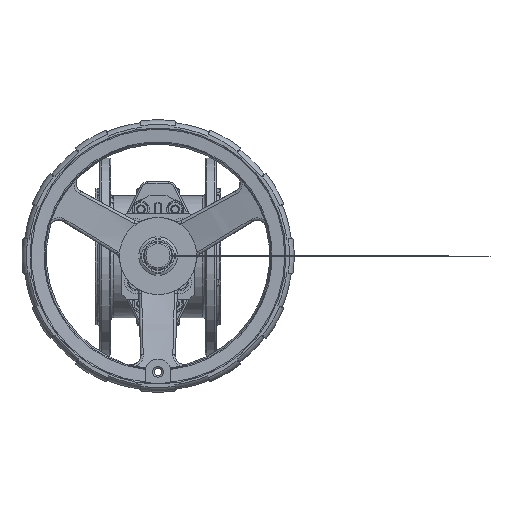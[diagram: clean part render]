
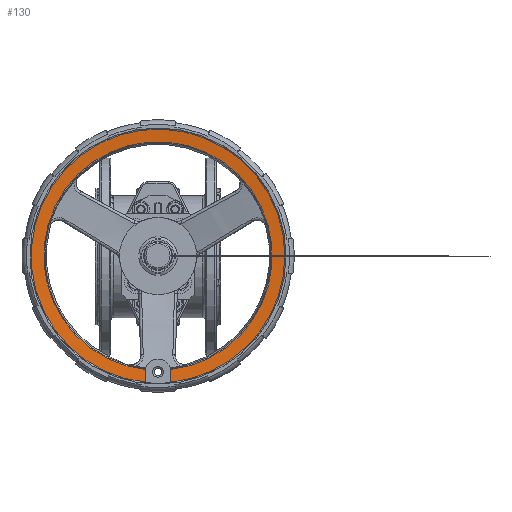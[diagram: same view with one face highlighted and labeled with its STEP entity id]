
A CAD part, top view. The second image highlights one B-rep face of the part: STEP entity #130.
In plain terms, the highlighted conical face has half-angle 85 degrees and reference radius 149 mm.
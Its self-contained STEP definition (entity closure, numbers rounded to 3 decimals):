
#130=ADVANCED_FACE('',(#1524),#1525,.F.);
#1524=FACE_OUTER_BOUND('',#4804,.T.);
#1525=CONICAL_SURFACE('',#4805,149.,1.484);
#4804=EDGE_LOOP('',(#22135,#22136,#22137,#22138,#22139,#22140));
#4805=AXIS2_PLACEMENT_3D('',#22141,#22142,#22143);
#22135=ORIENTED_EDGE('',*,*,#32483,.T.);
#22136=ORIENTED_EDGE('',*,*,#32484,.T.);
#22137=ORIENTED_EDGE('',*,*,#32485,.T.);
#22138=ORIENTED_EDGE('',*,*,#32486,.T.);
#22139=ORIENTED_EDGE('',*,*,#32487,.T.);
#22140=ORIENTED_EDGE('',*,*,#32488,.T.);
#22141=CARTESIAN_POINT('',(-386.5,0.,142.465));
#22142=DIRECTION('',(0.,0.,1.));
#22143=DIRECTION('',(-1.,0.,0.));
#32483=EDGE_CURVE('',#37174,#37175,#37176,.T.);
#32484=EDGE_CURVE('',#37175,#37177,#37178,.T.);
#32485=EDGE_CURVE('',#37177,#37179,#37180,.T.);
#32486=EDGE_CURVE('',#37179,#37181,#37182,.T.);
#32487=EDGE_CURVE('',#37181,#37183,#37184,.T.);
#32488=EDGE_CURVE('',#37183,#37174,#37185,.T.);
#37174=VERTEX_POINT('',#43135);
#37175=VERTEX_POINT('',#43136);
#37176=B_SPLINE_CURVE_WITH_KNOTS('',3,(#43137,#43138,#43139,#43140,#43141,#43142),.UNSPECIFIED.,.F.,.F.,(4,2,4),(0.018,0.019,0.021),.UNSPECIFIED.);
#37177=VERTEX_POINT('',#43143);
#37178=CIRCLE('',#43144,132.967);
#37179=VERTEX_POINT('',#43145);
#37180=B_SPLINE_CURVE_WITH_KNOTS('',3,(#43146,#43147,#43148,#43149),.UNSPECIFIED.,.F.,.F.,(4,4),(0.001,0.004),.UNSPECIFIED.);
#37181=VERTEX_POINT('',#43150);
#37182=B_SPLINE_CURVE_WITH_KNOTS('',3,(#43151,#43152,#43153,#43154,#43155,#43156,#43157),.UNSPECIFIED.,.F.,.F.,(4,3,4),(0.024,0.025,0.036),.UNSPECIFIED.);
#37183=VERTEX_POINT('',#43158);
#37184=CIRCLE('',#43159,147.631);
#37185=B_SPLINE_CURVE_WITH_KNOTS('',3,(#43160,#43161,#43162,#43163,#43164,#43165,#43166),.UNSPECIFIED.,.F.,.F.,(4,3,4),(0.015,0.025,0.027),.UNSPECIFIED.);
#43135=CARTESIAN_POINT('',(-401.5,-135.,141.313));
#43136=CARTESIAN_POINT('',(-401.226,-132.149,141.062));
#43137=CARTESIAN_POINT('',(-401.5,-135.,141.313));
#43138=CARTESIAN_POINT('',(-401.5,-134.525,141.272));
#43139=CARTESIAN_POINT('',(-401.477,-134.05,141.23));
#43140=CARTESIAN_POINT('',(-401.387,-133.099,141.147));
#43141=CARTESIAN_POINT('',(-401.318,-132.622,141.104));
#43142=CARTESIAN_POINT('',(-401.226,-132.149,141.062));
#43143=CARTESIAN_POINT('',(-371.773,-132.149,141.062));
#43144=AXIS2_PLACEMENT_3D('',#58925,#58926,#58927);
#43145=CARTESIAN_POINT('',(-371.5,-135.,141.313));
#43146=CARTESIAN_POINT('',(-371.773,-132.149,141.062));
#43147=CARTESIAN_POINT('',(-371.591,-133.093,141.146));
#43148=CARTESIAN_POINT('',(-371.5,-134.043,141.23));
#43149=CARTESIAN_POINT('',(-371.5,-135.,141.313));
#43150=CARTESIAN_POINT('',(-371.5,-146.867,142.345));
#43151=CARTESIAN_POINT('',(-371.5,-135.,141.313));
#43152=CARTESIAN_POINT('',(-371.5,-135.587,141.364));
#43153=CARTESIAN_POINT('',(-371.5,-136.173,141.415));
#43154=CARTESIAN_POINT('',(-371.5,-136.76,141.466));
#43155=CARTESIAN_POINT('',(-371.5,-140.129,141.759));
#43156=CARTESIAN_POINT('',(-371.5,-143.498,142.052));
#43157=CARTESIAN_POINT('',(-371.5,-146.867,142.345));
#43158=CARTESIAN_POINT('',(-401.5,-146.867,142.345));
#43159=AXIS2_PLACEMENT_3D('',#58928,#58929,#58930);
#43160=CARTESIAN_POINT('',(-401.5,-146.867,142.345));
#43161=CARTESIAN_POINT('',(-401.5,-143.498,142.052));
#43162=CARTESIAN_POINT('',(-401.5,-140.129,141.759));
#43163=CARTESIAN_POINT('',(-401.5,-136.76,141.466));
#43164=CARTESIAN_POINT('',(-401.5,-136.173,141.415));
#43165=CARTESIAN_POINT('',(-401.5,-135.587,141.364));
#43166=CARTESIAN_POINT('',(-401.5,-135.,141.313));
#58925=CARTESIAN_POINT('',(-386.5,0.,141.062));
#58926=DIRECTION('',(0.,0.,-1.));
#58927=DIRECTION('',(1.,0.,0.));
#58928=CARTESIAN_POINT('',(-386.5,0.,142.345));
#58929=DIRECTION('',(0.,0.,1.));
#58930=DIRECTION('',(-1.,0.,0.));
